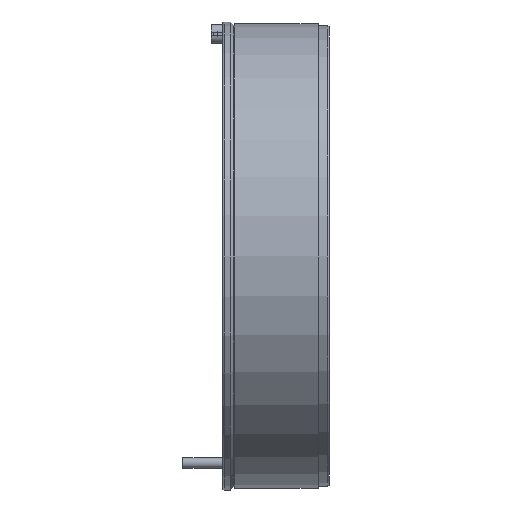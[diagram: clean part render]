
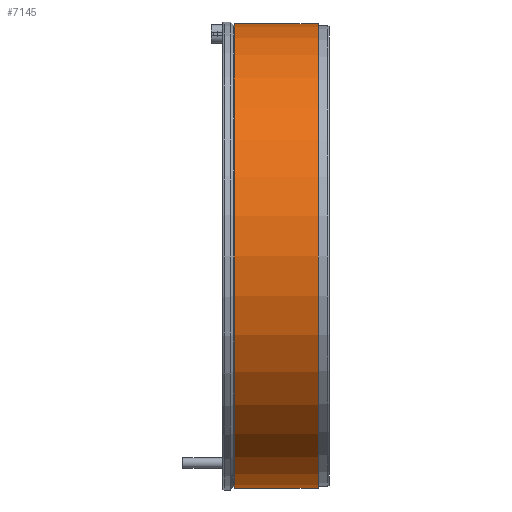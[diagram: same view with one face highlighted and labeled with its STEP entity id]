
A CAD part, left-side view. The second image highlights one B-rep face of the part: STEP entity #7145.
In plain terms, the highlighted cylindrical face has radius 284 mm (diameter 568 mm), a partial arc.
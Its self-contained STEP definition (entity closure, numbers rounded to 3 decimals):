
#143 = CIRCLE ( 'NONE', #12387, 284. ) ;
#371 = EDGE_CURVE ( 'NONE', #13112, #14029, #2707, .T. ) ;
#931 = DIRECTION ( 'NONE',  ( 0., 0., -1. ) ) ;
#1386 = CARTESIAN_POINT ( 'NONE',  ( 0., 13.5, 0. ) ) ;
#1597 = FACE_OUTER_BOUND ( 'NONE', #13415, .T. ) ;
#1782 = CYLINDRICAL_SURFACE ( 'NONE', #5478, 284. ) ;
#2299 = EDGE_CURVE ( 'NONE', #13112, #3796, #8096, .T. ) ;
#2707 = CIRCLE ( 'NONE', #11486, 284. ) ;
#2835 = VECTOR ( 'NONE', #12854, 1000. ) ;
#3796 = VERTEX_POINT ( 'NONE', #10186 ) ;
#5040 = VECTOR ( 'NONE', #11822, 1000. ) ;
#5478 = AXIS2_PLACEMENT_3D ( 'NONE', #6269, #13928, #931 ) ;
#5757 = CARTESIAN_POINT ( 'NONE',  ( 0., 116., -284. ) ) ;
#6269 = CARTESIAN_POINT ( 'NONE',  ( 0., 0., 0. ) ) ;
#6719 = ORIENTED_EDGE ( 'NONE', *, *, #11821, .F. ) ;
#6966 = VERTEX_POINT ( 'NONE', #10159 ) ;
#6988 = DIRECTION ( 'NONE',  ( 0., -1., 0. ) ) ;
#7145 = ADVANCED_FACE ( 'NONE', ( #1597 ), #1782, .T. ) ;
#7432 = DIRECTION ( 'NONE',  ( 0., 0., -1. ) ) ;
#8096 = LINE ( 'NONE', #8423, #2835 ) ;
#8165 = ORIENTED_EDGE ( 'NONE', *, *, #2299, .F. ) ;
#8423 = CARTESIAN_POINT ( 'NONE',  ( 0., 0., 284. ) ) ;
#8996 = DIRECTION ( 'NONE',  ( 0., 0., -1. ) ) ;
#10118 = ORIENTED_EDGE ( 'NONE', *, *, #13174, .T. ) ;
#10159 = CARTESIAN_POINT ( 'NONE',  ( 0., 13.5, -284. ) ) ;
#10186 = CARTESIAN_POINT ( 'NONE',  ( 0., 13.5, 284. ) ) ;
#10306 = LINE ( 'NONE', #10771, #5040 ) ;
#10488 = CARTESIAN_POINT ( 'NONE',  ( 0., 116., 284. ) ) ;
#10771 = CARTESIAN_POINT ( 'NONE',  ( 0., 0., -284. ) ) ;
#10828 = DIRECTION ( 'NONE',  ( 0., -1., 0. ) ) ;
#11486 = AXIS2_PLACEMENT_3D ( 'NONE', #13974, #10828, #7432 ) ;
#11549 = ORIENTED_EDGE ( 'NONE', *, *, #371, .T. ) ;
#11821 = EDGE_CURVE ( 'NONE', #3796, #6966, #143, .T. ) ;
#11822 = DIRECTION ( 'NONE',  ( 0., -1., 0. ) ) ;
#12387 = AXIS2_PLACEMENT_3D ( 'NONE', #1386, #6988, #8996 ) ;
#12854 = DIRECTION ( 'NONE',  ( 0., -1., 0. ) ) ;
#13112 = VERTEX_POINT ( 'NONE', #10488 ) ;
#13174 = EDGE_CURVE ( 'NONE', #14029, #6966, #10306, .T. ) ;
#13415 = EDGE_LOOP ( 'NONE', ( #8165, #11549, #10118, #6719 ) ) ;
#13928 = DIRECTION ( 'NONE',  ( 0., -1., 0. ) ) ;
#13974 = CARTESIAN_POINT ( 'NONE',  ( 0., 116., 0. ) ) ;
#14029 = VERTEX_POINT ( 'NONE', #5757 ) ;
